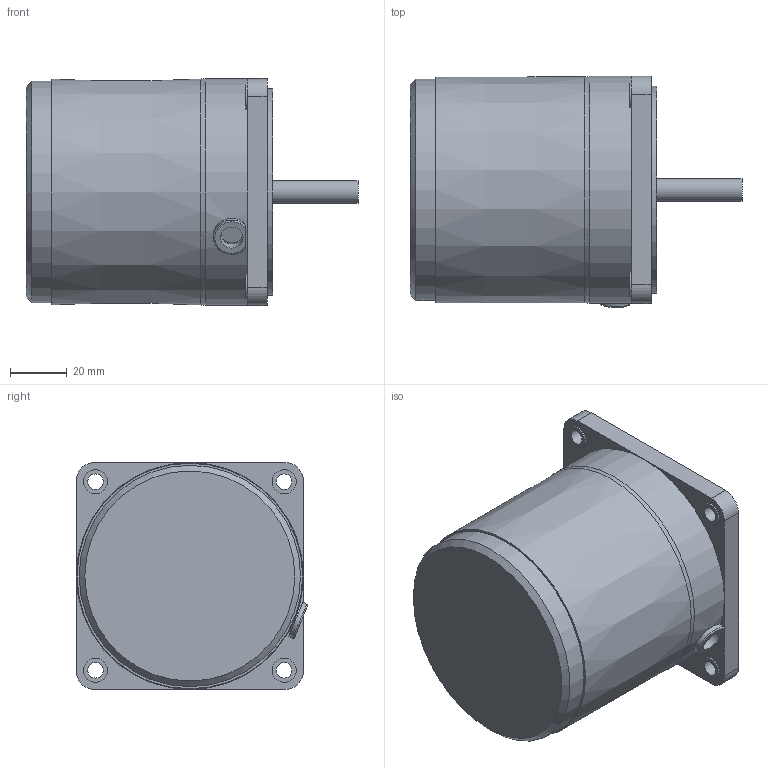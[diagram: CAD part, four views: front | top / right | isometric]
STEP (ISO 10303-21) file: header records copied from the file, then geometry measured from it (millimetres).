
FILE_DESCRIPTION((''),'2;1');
FILE_NAME('D:\STP파일\25W MOTOR\S8I15S.stp','2013-05-20T16:32:38',('leebh'),(''),'Autodesk Inventor 2011','Autodesk Inventor 2011','');
FILE_SCHEMA(('AUTOMOTIVE_DESIGN { 1 0 10303 214 1 1 1 1 }'));
Length unit declared in the file: millimetre
Products named in the file (1): 부품2
Bounding box: 117 x 81.51 x 80 mm (x, y, z)
Volume: 428108.8 mm3; surface area: 37490 mm2
Topology: 1 solids, 2 shells, 81 faces, 183 edges, 119 vertices
Faces by surface type: plane 46, cylinder 31, torus 2, cone 2
Full cylindrical faces by diameter (mm): 5.5 x4, 8 x2, 8.5 x4, 34 x1, 73 x1, 78 x1, 80 x1
Entity records: 2278 total; most frequent: CARTESIAN_POINT 424, DIRECTION 396, ORIENTED_EDGE 332, EDGE_CURVE 166, AXIS2_PLACEMENT_3D 153, VERTEX_POINT 119, EDGE_LOOP 119, VECTOR 90
